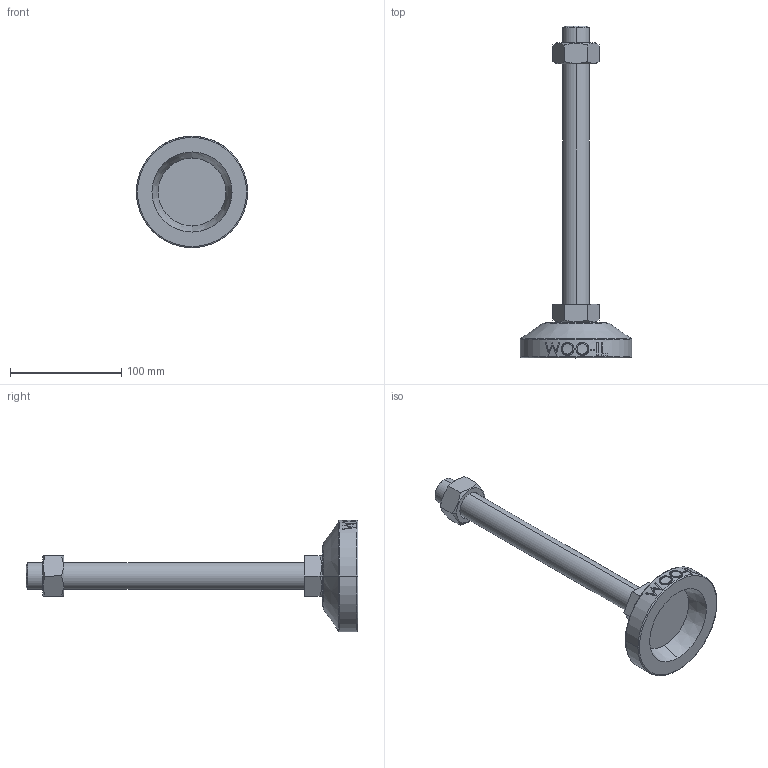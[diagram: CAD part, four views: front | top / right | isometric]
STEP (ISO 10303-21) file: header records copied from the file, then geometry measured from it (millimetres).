
FILE_DESCRIPTION (( 'STEP AP214' ), '1' );
FILE_NAME ('PAD-B100-M24-250.step', '2021-01-26T23:42:51', ( '' ), ( '' ), 'SwSTEP 2.0', 'SolidWorks 2019', '' );
FILE_SCHEMA (( 'AUTOMOTIVE_DESIGN' ));
Length unit declared in the file: millimetre
Products named in the file (2): PAD-B100-M24-250
Bounding box: 100 x 298 x 100 mm (x, y, z)
Volume: 291653.5 mm3; surface area: 52606.7 mm2
Topology: 3 solids, 3 shells, 100 faces, 231 edges, 148 vertices
Faces by surface type: plane 48, cylinder 16, cone 16, bspline 16, torus 4
Entity records: 4544 total; most frequent: CARTESIAN_POINT 2333, ORIENTED_EDGE 462, DIRECTION 403, EDGE_CURVE 231, AXIS2_PLACEMENT_3D 152, VERTEX_POINT 148, EDGE_LOOP 113, ADVANCED_FACE 100
